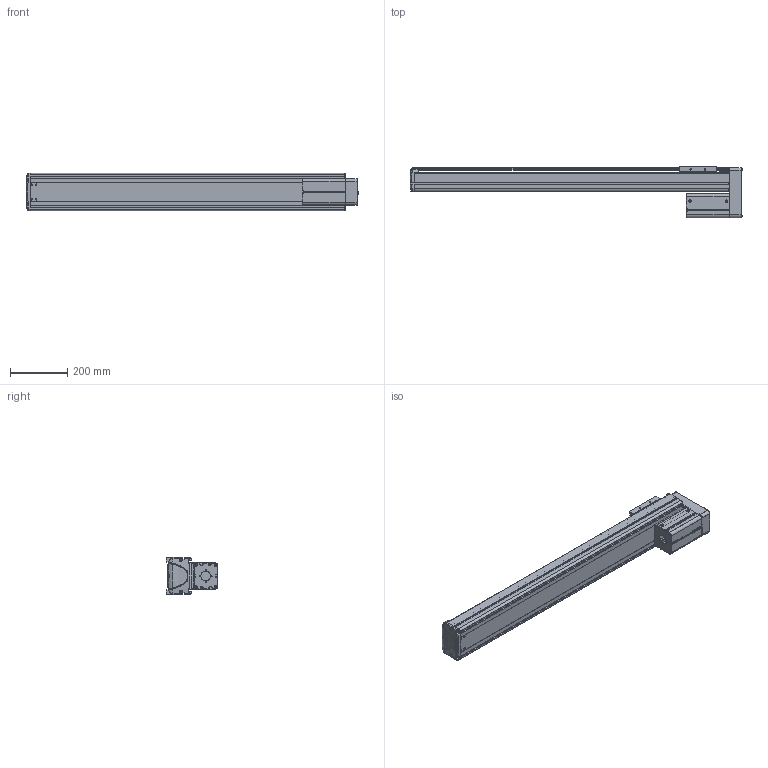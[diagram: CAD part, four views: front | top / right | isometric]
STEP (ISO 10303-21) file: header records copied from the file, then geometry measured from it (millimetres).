
FILE_DESCRIPTION((''),'2;1');
FILE_NAME('BE30E-UU-M_N-90_IGS_PRT','2017-06-17T',(' '),(''),'PRO/ENGINEER BY PARAMETRIC TECHNOLOGY CORPORATION, 2015030','PRO/ENGINEER BY PARAMETRIC TECHNOLOGY CORPORATION, 2015030','');
FILE_SCHEMA(('CONFIG_CONTROL_DESIGN'));
Length unit declared in the file: millimetre
Products named in the file (1): BE30E-UU-M_N-90_IGS_PRT
Bounding box: 1161.9 x 180 x 130 mm (x, y, z)
Volume: 3804124.5 mm3; surface area: 1619332 mm2
Topology: 2 solids, 124 shells, 2048 faces, 5530 edges, 3589 vertices
Faces by surface type: plane 993, cylinder 859, cone 107, torus 37, bspline 28, sphere 24
Entity records: 66411 total; most frequent: CARTESIAN_POINT 14069, DIRECTION 11060, ORIENTED_EDGE 10513, EDGE_CURVE 5492, AXIS2_PLACEMENT_3D 3901, VERTEX_POINT 3589, VECTOR 3258, LINE 3258
